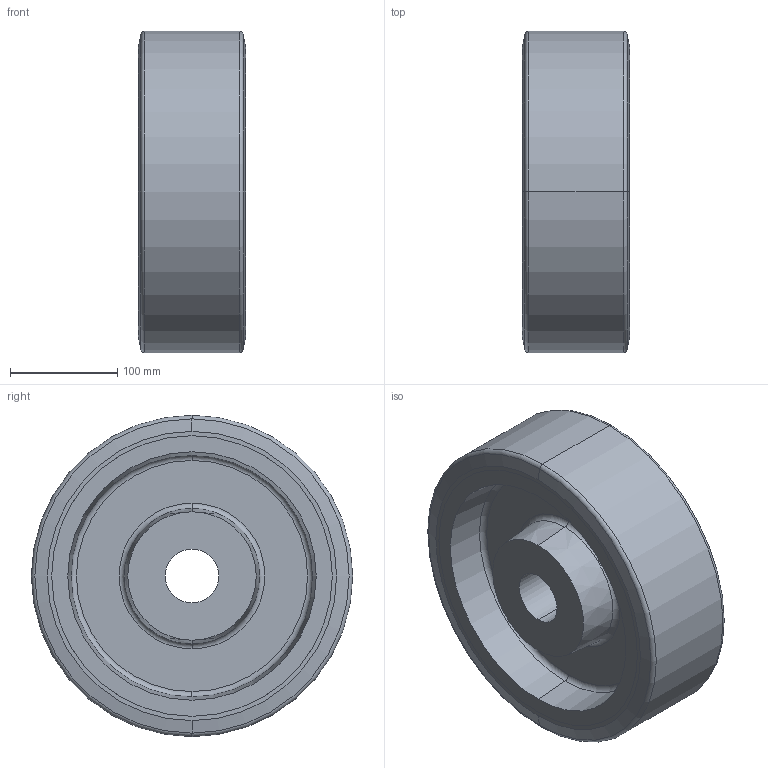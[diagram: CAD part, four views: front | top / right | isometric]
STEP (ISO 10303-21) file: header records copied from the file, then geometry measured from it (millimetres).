
FILE_DESCRIPTION (( 'STEP AP214' ), '1' );
FILE_NAME ('22887-300-B-A.step', '2024-10-28T09:26:57', ( '' ), ( '' ), 'SwSTEP 2.0', 'SolidWorks 2022', '' );
FILE_SCHEMA (( 'AUTOMOTIVE_DESIGN' ));
Length unit declared in the file: millimetre
Products named in the file (1): 22887-300-B-A
Bounding box: 100 x 300 x 300 mm (x, y, z)
Volume: 4519224.4 mm3; surface area: 317927.9 mm2
Topology: 1 solids, 1 shells, 46 faces, 92 edges, 56 vertices
Faces by surface type: cylinder 12, cone 12, torus 12, plane 10
Entity records: 1430 total; most frequent: DIRECTION 254, CARTESIAN_POINT 195, ORIENTED_EDGE 184, AXIS2_PLACEMENT_3D 115, EDGE_CURVE 92, CIRCLE 68, VERTEX_POINT 56, EDGE_LOOP 56
